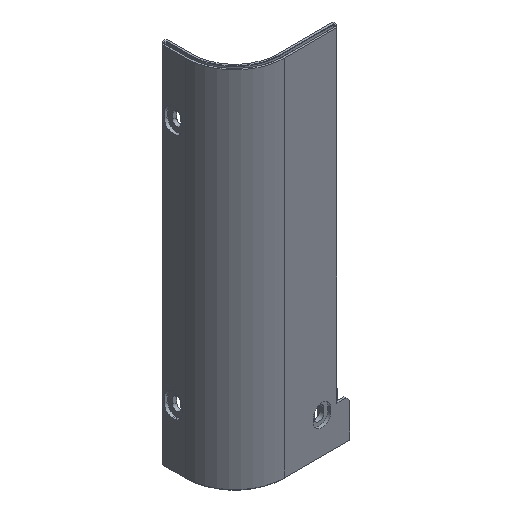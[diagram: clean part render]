
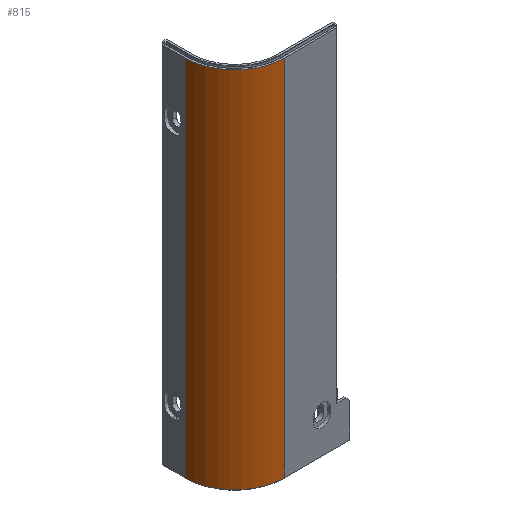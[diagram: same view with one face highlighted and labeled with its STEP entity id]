
A CAD part, isometric view. The second image highlights one B-rep face of the part: STEP entity #815.
In plain terms, the highlighted cylindrical face has radius 25 mm (diameter 50 mm), a partial arc.
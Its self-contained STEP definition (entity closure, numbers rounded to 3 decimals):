
#368 = DIRECTION ( 'NONE',  ( 0., 0., -1. ) ) ;
#420 = CARTESIAN_POINT ( 'NONE',  ( -25., 0., 368.5 ) ) ;
#431 = EDGE_CURVE ( 'NONE', #787, #1667, #3283, .T. ) ;
#482 = EDGE_LOOP ( 'NONE', ( #511, #3729, #2347, #948 ) ) ;
#511 = ORIENTED_EDGE ( 'NONE', *, *, #2660, .T. ) ;
#608 = AXIS2_PLACEMENT_3D ( 'NONE', #659, #2076, #4557 ) ;
#659 = CARTESIAN_POINT ( 'NONE',  ( 0., 0., -0.5 ) ) ;
#787 = VERTEX_POINT ( 'NONE', #1299 ) ;
#791 = CARTESIAN_POINT ( 'NONE',  ( 0., 0., 183.75 ) ) ;
#815 = ADVANCED_FACE ( 'NONE', ( #4078 ), #2529, .T. ) ;
#887 = DIRECTION ( 'NONE',  ( -1., 0., 0. ) ) ;
#948 = ORIENTED_EDGE ( 'NONE', *, *, #431, .F. ) ;
#1192 = CARTESIAN_POINT ( 'NONE',  ( -25., 0., -0.5 ) ) ;
#1275 = VECTOR ( 'NONE', #368, 1000. ) ;
#1299 = CARTESIAN_POINT ( 'NONE',  ( -25., 0., 183.75 ) ) ;
#1404 = VERTEX_POINT ( 'NONE', #1192 ) ;
#1667 = VERTEX_POINT ( 'NONE', #3164 ) ;
#2076 = DIRECTION ( 'NONE',  ( 0., 0., 1. ) ) ;
#2080 = CARTESIAN_POINT ( 'NONE',  ( 0., -25., 368.5 ) ) ;
#2109 = LINE ( 'NONE', #420, #1275 ) ;
#2297 = AXIS2_PLACEMENT_3D ( 'NONE', #791, #3981, #2928 ) ;
#2342 = CARTESIAN_POINT ( 'NONE',  ( 0., 0., 368.5 ) ) ;
#2347 = ORIENTED_EDGE ( 'NONE', *, *, #4441, .F. ) ;
#2430 = VERTEX_POINT ( 'NONE', #3774 ) ;
#2496 = EDGE_CURVE ( 'NONE', #1404, #2430, #4352, .T. ) ;
#2529 = CYLINDRICAL_SURFACE ( 'NONE', #3250, 25. ) ;
#2660 = EDGE_CURVE ( 'NONE', #787, #1404, #2109, .T. ) ;
#2763 = LINE ( 'NONE', #2080, #3266 ) ;
#2928 = DIRECTION ( 'NONE',  ( 1., 0., 0. ) ) ;
#3164 = CARTESIAN_POINT ( 'NONE',  ( 0., -25., 183.75 ) ) ;
#3250 = AXIS2_PLACEMENT_3D ( 'NONE', #2342, #3797, #887 ) ;
#3266 = VECTOR ( 'NONE', #4268, 1000. ) ;
#3283 = CIRCLE ( 'NONE', #2297, 25. ) ;
#3729 = ORIENTED_EDGE ( 'NONE', *, *, #2496, .T. ) ;
#3774 = CARTESIAN_POINT ( 'NONE',  ( 0., -25., -0.5 ) ) ;
#3797 = DIRECTION ( 'NONE',  ( 0., 0., -1. ) ) ;
#3981 = DIRECTION ( 'NONE',  ( 0., 0., 1. ) ) ;
#4078 = FACE_OUTER_BOUND ( 'NONE', #482, .T. ) ;
#4268 = DIRECTION ( 'NONE',  ( 0., 0., -1. ) ) ;
#4352 = CIRCLE ( 'NONE', #608, 25. ) ;
#4441 = EDGE_CURVE ( 'NONE', #1667, #2430, #2763, .T. ) ;
#4557 = DIRECTION ( 'NONE',  ( 1., 0., 0. ) ) ;
